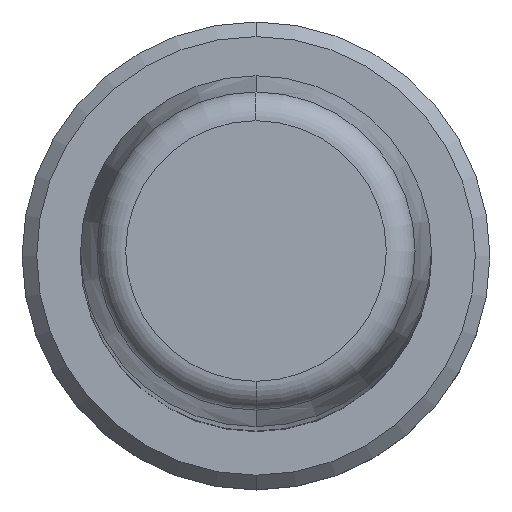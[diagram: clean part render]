
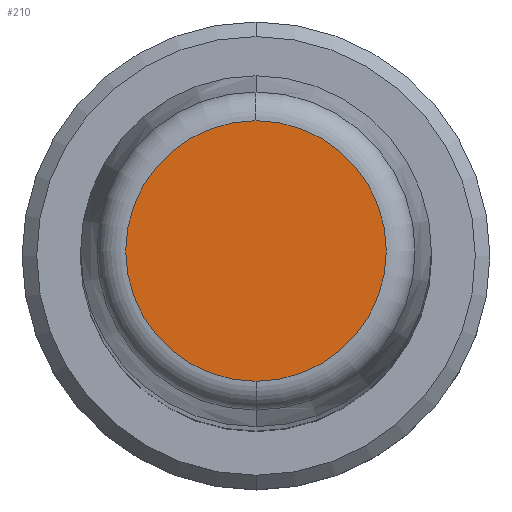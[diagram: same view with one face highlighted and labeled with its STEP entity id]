
A CAD part, top view. The second image highlights one B-rep face of the part: STEP entity #210.
In plain terms, the highlighted planar face has unit normal (0, 0, 1).
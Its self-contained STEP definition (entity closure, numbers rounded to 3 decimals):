
#1=CARTESIAN_POINT('',(0.,0.,100.));
#2=DIRECTION('',(0.,0.,-1.));
#3=DIRECTION('',(0.,-1.,0.));
#4=AXIS2_PLACEMENT_3D('',#1,#2,#3);
#6=CARTESIAN_POINT('',(0.,0.,100.));
#7=DIRECTION('',(0.,0.,-1.));
#8=DIRECTION('',(0.,1.,0.));
#9=AXIS2_PLACEMENT_3D('',#6,#7,#8);
#183=CARTESIAN_POINT('',(0.,-4.456,100.));
#184=CARTESIAN_POINT('',(0.,4.456,100.));
#185=VERTEX_POINT('',#183);
#186=VERTEX_POINT('',#184);
#199=CARTESIAN_POINT('',(0.,0.,100.));
#200=DIRECTION('',(0.,0.,1.));
#201=DIRECTION('',(0.,-1.,0.));
#202=AXIS2_PLACEMENT_3D('',#199,#200,#201);
#203=PLANE('',#202);
#205=ORIENTED_EDGE('',*,*,#204,.T.);
#207=ORIENTED_EDGE('',*,*,#206,.T.);
#208=EDGE_LOOP('',(#205,#207));
#209=FACE_OUTER_BOUND('',#208,.F.);
#210=ADVANCED_FACE('',(#209),#203,.T.);
#5=CIRCLE('',#4,4.456);
#10=CIRCLE('',#9,4.456);
#204=EDGE_CURVE('',#185,#186,#5,.T.);
#206=EDGE_CURVE('',#186,#185,#10,.T.);
